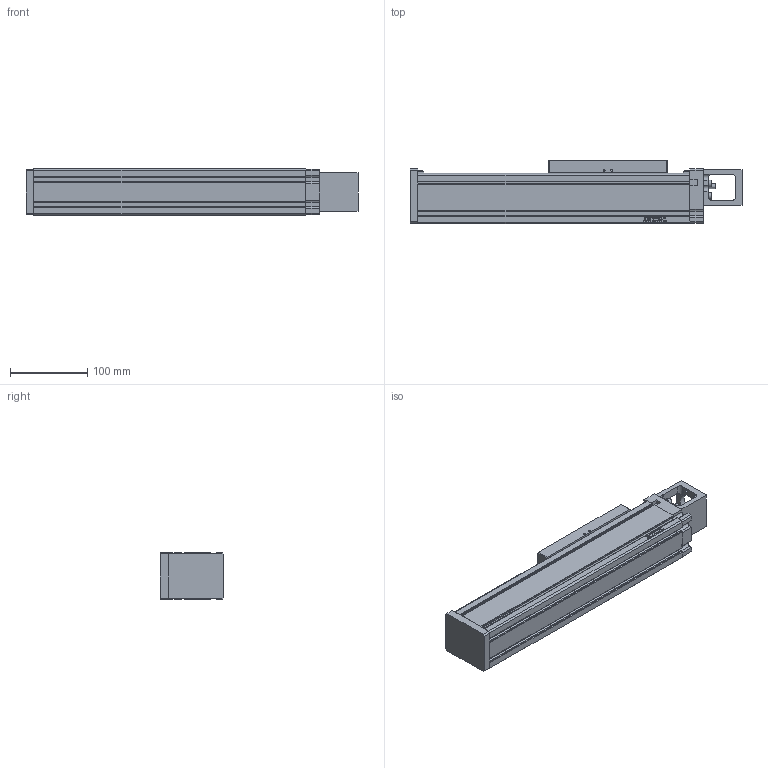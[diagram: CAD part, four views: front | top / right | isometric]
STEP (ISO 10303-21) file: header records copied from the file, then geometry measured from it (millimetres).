
FILE_DESCRIPTION(/* description */ (''),/* implementation_level */ '2;1');
FILE_NAME(/* name */ 'D:\混合母檔20191031\混和母檔\混和母檔\bin\Debug\Download\3D\KU60-5C-150AF0\KU60-5C-150AF0.stp',/* time_stamp */ '2019-11-04T16:28:30+08:00',/* author */ ('user'),/* organization */ (''),/* preprocessor_version */ 'ST-DEVELOPER v16.13',/* originating_system */ 'Autodesk Inventor 2018',/* authorisation */ '');
FILE_SCHEMA (('AUTOMOTIVE_DESIGN { 1 0 10303 214 3 1 1 }'));
Length unit declared in the file: millimetre
Products named in the file (3): KU60-5C-150AF0; KU060-F0-BP; KU60-SL
Assembly tree (2 placements, depth 2):
  KU60-5C-150AF0
    KU060-F0-BP
    KU60-SL
Bounding box: 431 x 82 x 60 mm (x, y, z)
Volume: 1589146.1 mm3; surface area: 180676.9 mm2
Topology: 2 solids, 14 shells, 756 faces, 2087 edges, 1370 vertices
Faces by surface type: plane 448, bspline 140, cylinder 133, cone 23, torus 12
Full cylindrical faces by diameter (mm): 2.459 x8, 3 x4, 3.242 x16, 3.5 x4, 4.5 x4, 5 x4, 5.5 x4, 5.7 x4, 6 x1, 8 x1, 8.5 x4, 30 x1, 35 x1
Entity records: 24568 total; most frequent: CARTESIAN_POINT 6539, ORIENTED_EDGE 3902, DIRECTION 3204, EDGE_CURVE 1951, VERTEX_POINT 1321, LINE 1288, VECTOR 1288, AXIS2_PLACEMENT_3D 958
